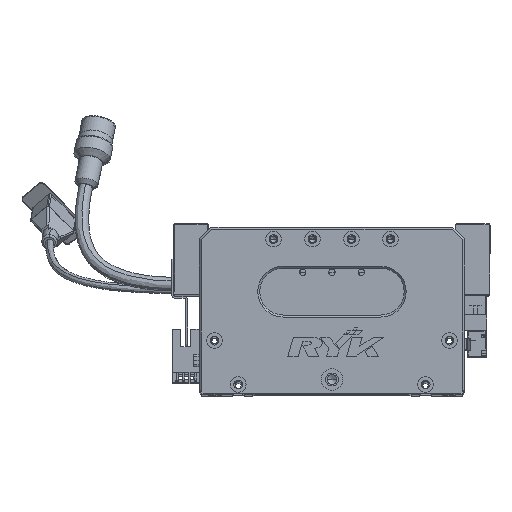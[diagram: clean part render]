
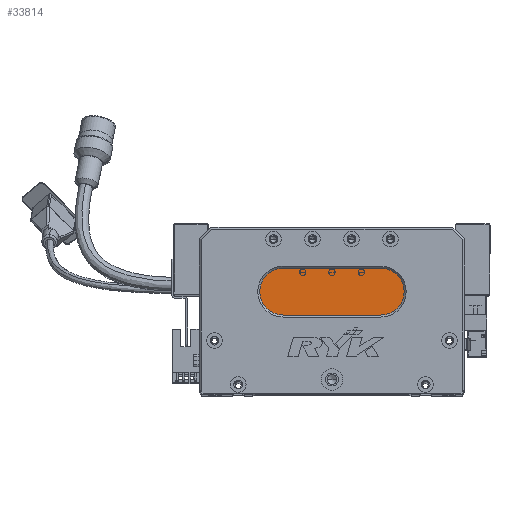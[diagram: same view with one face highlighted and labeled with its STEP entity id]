
A CAD part, top view. The second image highlights one B-rep face of the part: STEP entity #33814.
In plain terms, the highlighted planar face has unit normal (0, 0, 1) as drawn and (0, 0, -1) by its records, which use the part's own axes.
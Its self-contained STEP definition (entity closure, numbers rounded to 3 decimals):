
#809 = DIRECTION ( 'NONE',  ( -1., 0., 0. ) ) ;
#2880 = FACE_OUTER_BOUND ( 'NONE', #53062, .T. ) ;
#6156 = AXIS2_PLACEMENT_3D ( 'NONE', #18214, #35382, #809 ) ;
#8466 = LINE ( 'NONE', #59642, #30792 ) ;
#10696 = AXIS2_PLACEMENT_3D ( 'NONE', #52614, #64146, #29962 ) ;
#11710 = EDGE_CURVE ( 'NONE', #60520, #26778, #72863, .T. ) ;
#14752 = EDGE_CURVE ( 'NONE', #26778, #49955, #16216, .T. ) ;
#16216 = LINE ( 'NONE', #32513, #66183 ) ;
#18214 = CARTESIAN_POINT ( 'NONE',  ( 43., 52., 13. ) ) ;
#21151 = CARTESIAN_POINT ( 'NONE',  ( 31., 52., 13. ) ) ;
#22742 = CARTESIAN_POINT ( 'NONE',  ( 43., 52., 13. ) ) ;
#23691 = CIRCLE ( 'NONE', #58581, 12. ) ;
#24219 = ORIENTED_EDGE ( 'NONE', *, *, #14752, .T. ) ;
#26778 = VERTEX_POINT ( 'NONE', #73569 ) ;
#29962 = DIRECTION ( 'NONE',  ( -1., 0., 0. ) ) ;
#30792 = VECTOR ( 'NONE', #71842, 1000. ) ;
#32513 = CARTESIAN_POINT ( 'NONE',  ( 93., 40., 13. ) ) ;
#33814 = ADVANCED_FACE ( 'NONE', ( #2880 ), #39107, .T. ) ;
#35382 = DIRECTION ( 'NONE',  ( 0., 0., -1. ) ) ;
#39107 = PLANE ( 'NONE',  #55966 ) ;
#42965 = ORIENTED_EDGE ( 'NONE', *, *, #57030, .T. ) ;
#45366 = DIRECTION ( 'NONE',  ( -1., 0., 0. ) ) ;
#47116 = VERTEX_POINT ( 'NONE', #57417 ) ;
#48554 = CIRCLE ( 'NONE', #6156, 12. ) ;
#48682 = EDGE_CURVE ( 'NONE', #47116, #60520, #8466, .T. ) ;
#49955 = VERTEX_POINT ( 'NONE', #59985 ) ;
#50611 = CARTESIAN_POINT ( 'NONE',  ( 93., 52., 13. ) ) ;
#50661 = ORIENTED_EDGE ( 'NONE', *, *, #11710, .T. ) ;
#52614 = CARTESIAN_POINT ( 'NONE',  ( 93., 52., 13. ) ) ;
#53062 = EDGE_LOOP ( 'NONE', ( #50661, #24219, #42965, #72650, #60751 ) ) ;
#55884 = DIRECTION ( 'NONE',  ( 0., 0., -1. ) ) ;
#55966 = AXIS2_PLACEMENT_3D ( 'NONE', #50611, #55884, #67616 ) ;
#57030 = EDGE_CURVE ( 'NONE', #49955, #57318, #23691, .T. ) ;
#57318 = VERTEX_POINT ( 'NONE', #21151 ) ;
#57417 = CARTESIAN_POINT ( 'NONE',  ( 43., 64., 13. ) ) ;
#58581 = AXIS2_PLACEMENT_3D ( 'NONE', #22742, #60832, #45366 ) ;
#59642 = CARTESIAN_POINT ( 'NONE',  ( 93., 64., 13. ) ) ;
#59985 = CARTESIAN_POINT ( 'NONE',  ( 43., 40., 13. ) ) ;
#60520 = VERTEX_POINT ( 'NONE', #61217 ) ;
#60751 = ORIENTED_EDGE ( 'NONE', *, *, #48682, .T. ) ;
#60832 = DIRECTION ( 'NONE',  ( 0., 0., -1. ) ) ;
#61217 = CARTESIAN_POINT ( 'NONE',  ( 93., 64., 13. ) ) ;
#64146 = DIRECTION ( 'NONE',  ( 0., 0., -1. ) ) ;
#66183 = VECTOR ( 'NONE', #66212, 1000. ) ;
#66212 = DIRECTION ( 'NONE',  ( -1., 0., 0. ) ) ;
#67616 = DIRECTION ( 'NONE',  ( -1., 0., 0. ) ) ;
#68491 = EDGE_CURVE ( 'NONE', #57318, #47116, #48554, .T. ) ;
#71842 = DIRECTION ( 'NONE',  ( 1., 0., 0. ) ) ;
#72650 = ORIENTED_EDGE ( 'NONE', *, *, #68491, .T. ) ;
#72863 = CIRCLE ( 'NONE', #10696, 12. ) ;
#73569 = CARTESIAN_POINT ( 'NONE',  ( 93., 40., 13. ) ) ;
